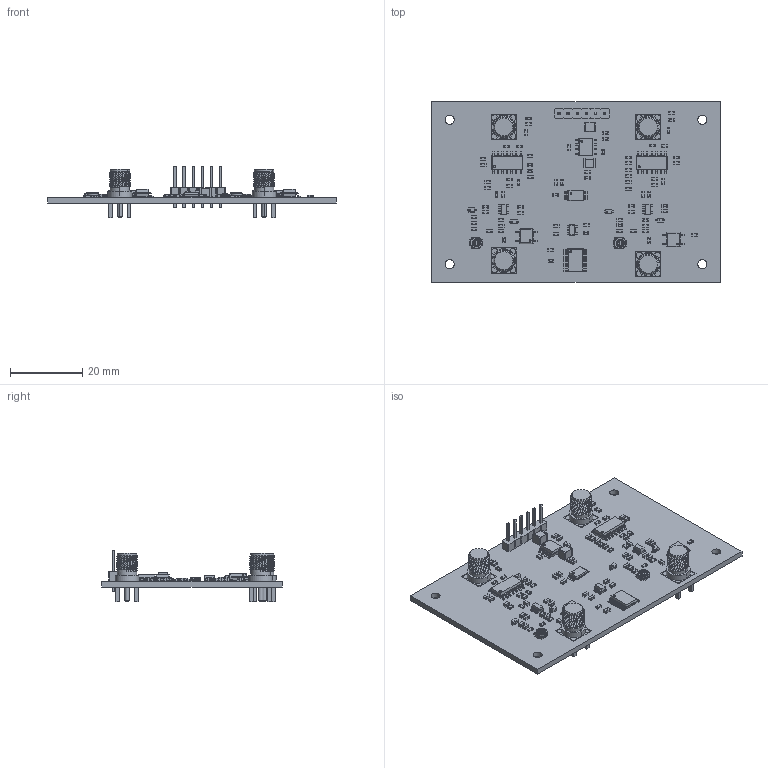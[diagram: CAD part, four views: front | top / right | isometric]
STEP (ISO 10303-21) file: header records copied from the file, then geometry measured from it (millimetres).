
FILE_DESCRIPTION(('KiCad electronic assembly'),'2;1');
FILE_NAME('FREQ_INTF2.step','2024-08-19T13:26:49',('Pcbnew'),('Kicad'), 'Open CASCADE STEP processor 7.7','KiCad to STEP converter','Unknown' );
FILE_SCHEMA(('AUTOMOTIVE_DESIGN { 1 0 10303 214 1 1 1 1 }'));
Length unit declared in the file: millimetre
Products named in the file (28): FREQ_INTF2 1; C_0603_1608Metric; R_0603_1608Metric; SOIC-8_3.9x4.9mm_P1.27mm; SOIC_8_39x49mm_P127mm; L_1210_3225Metric; 901-144-8RFX; D_SOD-323; D_SOD_323; SOT-23-5; SOT_23_5; SOP-4_3.8x4.1mm_P2.54mm; SOP_4_38x41mm_P254mm; SSOP-20_4.4x6.5mm_P0.65mm; SSOP_20_44x65mm_P065mm; SOIC-14_3.9x8.7mm_P1.27mm; SOIC_14_39x87mm_P127mm; JR150; TSSOP-8_4.4x3mm_P0.65mm; TSSOP_8_44x3mm_P065mm; PinHeader_1x06_P2.54mm_Vertical; PinHeader_1x06_P254mm_Vertical; SCOPE_IF2_PCB
Assembly tree (113 placements, depth 3):
  FREQ_INTF2 1
    C_0603_1608Metric  x50
      C_0603_1608Metric
    R_0603_1608Metric  x26
      R_0603_1608Metric
    SOIC-8_3.9x4.9mm_P1.27mm
      SOIC_8_39x49mm_P127mm
    L_1210_3225Metric  x2
      L_1210_3225Metric
    901-144-8RFX  x4
      901-144-8RFX
    D_SOD-323  x4
      D_SOD_323
    SOT-23-5  x3
      SOT_23_5
    SOP-4_3.8x4.1mm_P2.54mm  x2
      SOP_4_38x41mm_P254mm
    SSOP-20_4.4x6.5mm_P0.65mm
      SSOP_20_44x65mm_P065mm
    SOIC-14_3.9x8.7mm_P1.27mm  x2
      SOIC_14_39x87mm_P127mm
    JR150  x2
      JR150
    TSSOP-8_4.4x3mm_P0.65mm
      TSSOP_8_44x3mm_P065mm
    PinHeader_1x06_P2.54mm_Vertical
      PinHeader_1x06_P254mm_Vertical
    SCOPE_IF2_PCB
Bounding box: 80 x 50 x 14.28 mm (x, y, z)
Volume: 7910.8 mm3; surface area: 11929.5 mm2
Topology: 100 solids, 100 shells, 4973 faces, 12772 edges, 8106 vertices
Faces by surface type: plane 2867, cylinder 1509, bspline 487, torus 72, cone 22, sphere 12, revolution 4
Full cylindrical faces by diameter (mm): 0.305 x4, 0.5 x4, 0.6 x3, 1 x6, 1.5 x6, 1.7 x16, 2.5 x4
Entity records: 64860 total; most frequent: CARTESIAN_POINT 11443, ORIENTED_EDGE 8834, DIRECTION 8139, EDGE_CURVE 4417, LINE 3215, VECTOR 3215, VERTEX_POINT 2749, AXIS2_PLACEMENT_3D 2461
